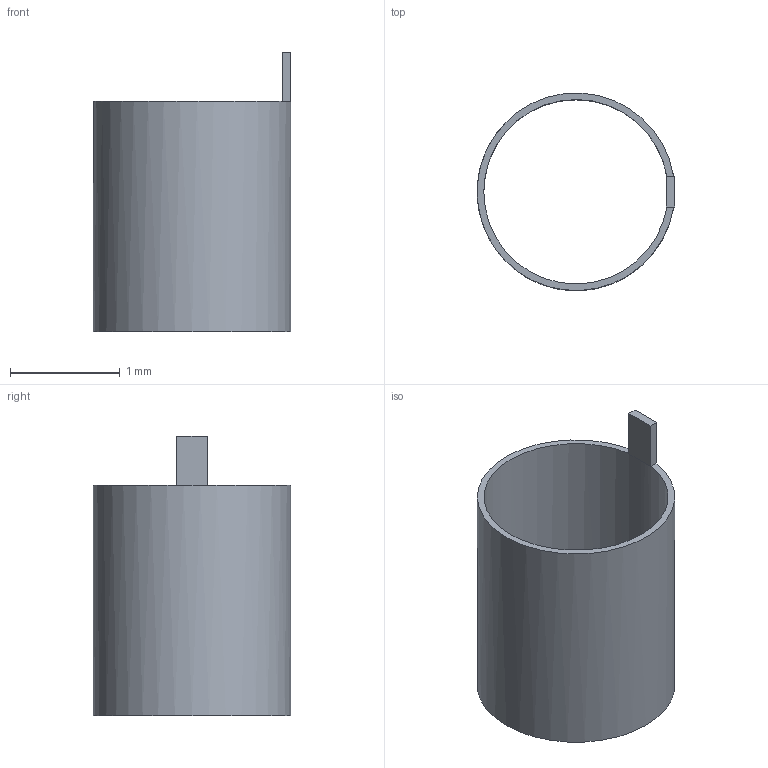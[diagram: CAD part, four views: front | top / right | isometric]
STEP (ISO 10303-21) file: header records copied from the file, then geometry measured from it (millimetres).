
FILE_DESCRIPTION(('Open CASCADE Model'),'2;1');
FILE_NAME('Open CASCADE Shape Model','2026-09-15T23:57:53',('Author'),( 'Open CASCADE'),'Open CASCADE STEP processor 7.9','Open CASCADE 7.9' ,'Unknown');
FILE_SCHEMA(('AUTOMOTIVE_DESIGN { 1 0 10303 214 1 1 1 1 }'));
Length unit declared in the file: millimetre
Products named in the file (1): Open CASCADE STEP translator 7.9 6
Bounding box: 1.8 x 1.8 x 2.55 mm (x, y, z)
Volume: 0.7 mm3; surface area: 23.9 mm2
Topology: 1 solids, 1 shells, 12 faces, 27 edges, 16 vertices
Faces by surface type: plane 10, cylinder 2
Full cylindrical faces by diameter (mm): 1.68 x1, 1.8 x1
Entity records: 696 total; most frequent: DIRECTION 115, CARTESIAN_POINT 110, LINE 65, VECTOR 65, ORIENTED_EDGE 54, PCURVE 54, DEFINITIONAL_REPRESENTATION 54, EDGE_CURVE 27
